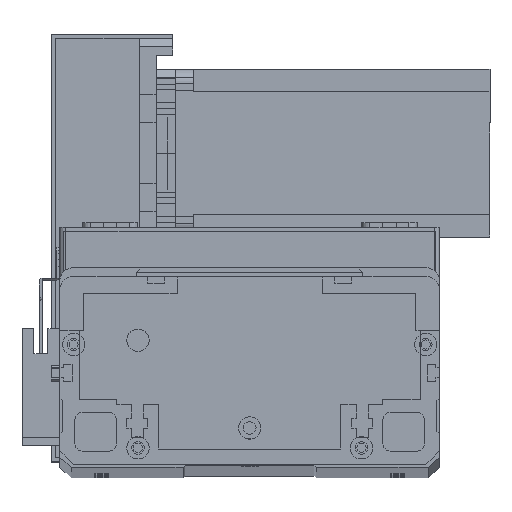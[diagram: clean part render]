
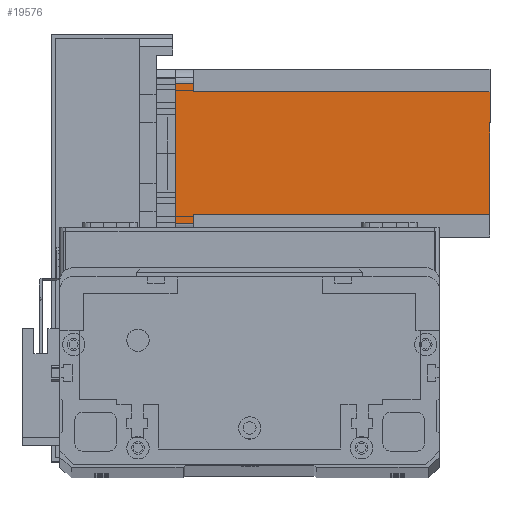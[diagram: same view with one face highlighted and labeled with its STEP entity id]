
A CAD part, top view. The second image highlights one B-rep face of the part: STEP entity #19576.
In plain terms, the highlighted planar face has unit normal (0, 0, 1) as drawn and (0, -1, 0) by its records, which use the part's own axes.
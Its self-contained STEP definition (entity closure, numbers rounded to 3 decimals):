
#45 = LINE ( 'NONE', #4889, #24218 ) ;
#1747 = EDGE_CURVE ( 'NONE', #29010, #7007, #10831, .T. ) ;
#2546 = VECTOR ( 'NONE', #26656, 1000. ) ;
#3122 = CARTESIAN_POINT ( 'NONE',  ( 0., 0., -112.5 ) ) ;
#3406 = LINE ( 'NONE', #9664, #15199 ) ;
#3861 = CARTESIAN_POINT ( 'NONE',  ( 0., 0., 0. ) ) ;
#4018 = EDGE_CURVE ( 'NONE', #26603, #12495, #15106, .T. ) ;
#4051 = VECTOR ( 'NONE', #26503, 1000. ) ;
#4546 = VECTOR ( 'NONE', #10202, 1000. ) ;
#4889 = CARTESIAN_POINT ( 'NONE',  ( 52., 0., -6.5 ) ) ;
#5263 = EDGE_CURVE ( 'NONE', #14489, #7007, #15080, .T. ) ;
#5520 = PLANE ( 'NONE',  #7749 ) ;
#5528 = LINE ( 'NONE', #14943, #4051 ) ;
#6293 = CARTESIAN_POINT ( 'NONE',  ( 52., 0., -112.5 ) ) ;
#6785 = VERTEX_POINT ( 'NONE', #12067 ) ;
#7007 = VERTEX_POINT ( 'NONE', #25254 ) ;
#7296 = ORIENTED_EDGE ( 'NONE', *, *, #25349, .T. ) ;
#7749 = AXIS2_PLACEMENT_3D ( 'NONE', #3122, #10161, #21890 ) ;
#7951 = DIRECTION ( 'NONE',  ( 0., 0., -1. ) ) ;
#8528 = VECTOR ( 'NONE', #8701, 1000. ) ;
#8701 = DIRECTION ( 'NONE',  ( 0., 0., 1. ) ) ;
#9462 = CARTESIAN_POINT ( 'NONE',  ( 52., 0., -112.5 ) ) ;
#9664 = CARTESIAN_POINT ( 'NONE',  ( 8., 0., -112.5 ) ) ;
#10161 = DIRECTION ( 'NONE',  ( 0., -1., 0. ) ) ;
#10202 = DIRECTION ( 'NONE',  ( 0., 0., -1. ) ) ;
#10831 = LINE ( 'NONE', #20312, #4546 ) ;
#10866 = DIRECTION ( 'NONE',  ( 1., 0., 0. ) ) ;
#11277 = EDGE_CURVE ( 'NONE', #26603, #16884, #45, .T. ) ;
#11621 = EDGE_CURVE ( 'NONE', #16884, #6785, #14731, .T. ) ;
#12067 = CARTESIAN_POINT ( 'NONE',  ( 55., 0., 0. ) ) ;
#12408 = CARTESIAN_POINT ( 'NONE',  ( 52., 0., -6.5 ) ) ;
#12453 = CARTESIAN_POINT ( 'NONE',  ( 8., 0., -6.5 ) ) ;
#12481 = LINE ( 'NONE', #3861, #24137 ) ;
#12495 = VERTEX_POINT ( 'NONE', #9462 ) ;
#13179 = ORIENTED_EDGE ( 'NONE', *, *, #4018, .F. ) ;
#13422 = EDGE_CURVE ( 'NONE', #29010, #6785, #12481, .T. ) ;
#13706 = ORIENTED_EDGE ( 'NONE', *, *, #5263, .F. ) ;
#14065 = FACE_OUTER_BOUND ( 'NONE', #21579, .T. ) ;
#14489 = VERTEX_POINT ( 'NONE', #12453 ) ;
#14731 = LINE ( 'NONE', #27202, #8528 ) ;
#14943 = CARTESIAN_POINT ( 'NONE',  ( 0., 0., -112.5 ) ) ;
#15080 = LINE ( 'NONE', #27395, #2546 ) ;
#15106 = LINE ( 'NONE', #6293, #25969 ) ;
#15199 = VECTOR ( 'NONE', #21298, 1000. ) ;
#15506 = ORIENTED_EDGE ( 'NONE', *, *, #13422, .F. ) ;
#16884 = VERTEX_POINT ( 'NONE', #17725 ) ;
#17725 = CARTESIAN_POINT ( 'NONE',  ( 55., 0., -6.5 ) ) ;
#19205 = VERTEX_POINT ( 'NONE', #28932 ) ;
#19576 = ADVANCED_FACE ( 'NONE', ( #14065 ), #5520, .T. ) ;
#20213 = ORIENTED_EDGE ( 'NONE', *, *, #11621, .T. ) ;
#20312 = CARTESIAN_POINT ( 'NONE',  ( 5., 0., -112.5 ) ) ;
#21298 = DIRECTION ( 'NONE',  ( 0., 0., 1. ) ) ;
#21356 = DIRECTION ( 'NONE',  ( 1., 0., 0. ) ) ;
#21579 = EDGE_LOOP ( 'NONE', ( #26724, #20213, #15506, #27468, #13706, #24993, #7296, #13179 ) ) ;
#21890 = DIRECTION ( 'NONE',  ( 0., 0., -1. ) ) ;
#24137 = VECTOR ( 'NONE', #10866, 1000. ) ;
#24218 = VECTOR ( 'NONE', #21356, 1000. ) ;
#24993 = ORIENTED_EDGE ( 'NONE', *, *, #29244, .F. ) ;
#25254 = CARTESIAN_POINT ( 'NONE',  ( 5., 0., -6.5 ) ) ;
#25349 = EDGE_CURVE ( 'NONE', #19205, #12495, #5528, .T. ) ;
#25969 = VECTOR ( 'NONE', #7951, 1000. ) ;
#26503 = DIRECTION ( 'NONE',  ( 1., 0., 0. ) ) ;
#26603 = VERTEX_POINT ( 'NONE', #12408 ) ;
#26656 = DIRECTION ( 'NONE',  ( -1., 0., 0. ) ) ;
#26724 = ORIENTED_EDGE ( 'NONE', *, *, #11277, .T. ) ;
#27202 = CARTESIAN_POINT ( 'NONE',  ( 55., 0., -112.5 ) ) ;
#27395 = CARTESIAN_POINT ( 'NONE',  ( 8., 0., -6.5 ) ) ;
#27468 = ORIENTED_EDGE ( 'NONE', *, *, #1747, .T. ) ;
#28932 = CARTESIAN_POINT ( 'NONE',  ( 8., 0., -112.5 ) ) ;
#29010 = VERTEX_POINT ( 'NONE', #29791 ) ;
#29244 = EDGE_CURVE ( 'NONE', #19205, #14489, #3406, .T. ) ;
#29791 = CARTESIAN_POINT ( 'NONE',  ( 5., 0., 0. ) ) ;
